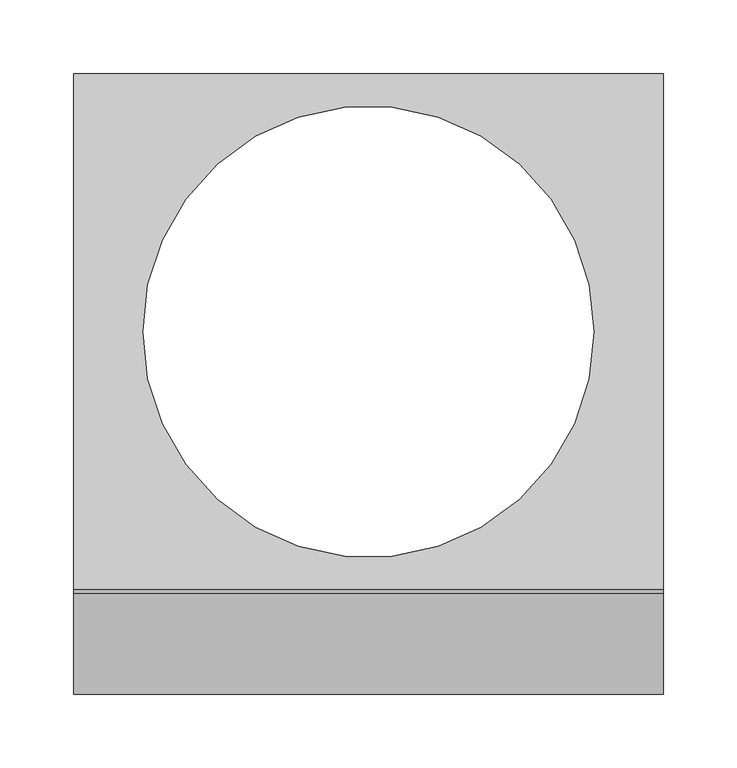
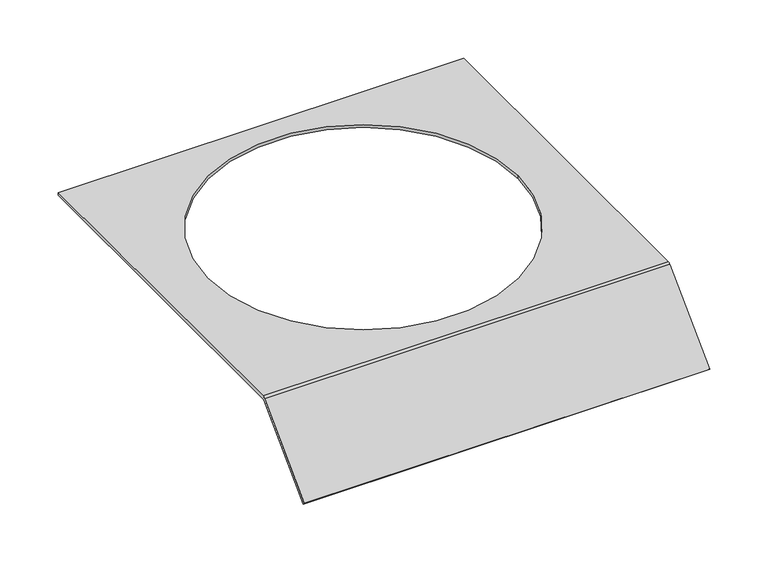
"""IFC4 building model written with IfcOpenShell, lengths in millimetres: proxy geometry, Electrical_Installation_Hager_Covers-With-Installation-Opening-R12 : Electrical_Installation_Hager_Covers-With-Installation-Opening-R12."""

from ifc_helpers import new_model, si_unit, frame, origin, place, context, project, spatial, polyline, circle_curve, source, transform, mapped, element, save
from ifc_brep_helpers import plane_surface, cylinder_surface, revolved_surface, advanced_brep


def electrical_fixtures_6b5bff6d(model_context):
    return source(origin(), model_context, "Body", "AdvancedBrep", [
        advanced_brep(
        [(0.0, 175.0, 40.5), (0.0, 175.0, 37.5), (0.0, -174.8229541, 37.5), (0.0, -175.8322972, 37.0819164), (0.0, -243.712807, -30.7985934), (0.0, -245.8341273, -28.6772731), (0.0, -177.8206472, 39.336207), (0.0, -175.0110025, 40.5), (400.0, 175.0, 40.5), (400.0, -175.0110025, 40.5), (400.0, -177.8206472, 39.336207), (400.0, -245.8341273, -28.6772731), (400.0, -243.712807, -30.7985934), (400.0, -175.8322972, 37.0819164), (400.0, -174.8229541, 37.5), (400.0, 175.0, 37.5), (47.0, 0.0, 37.5), (353.0, 0.0, 37.5), (353.0, 0.0, 40.5), (47.0, 0.0, 40.5)],
        [
            (0, 1),
            (1, 2),
            (2, 3, circle_curve(frame((0.0, -174.8229541, 36.0725733), z_axis=(1.0, 0.0, 0.0), x_axis=(0.0, 1.0, 0.0)), 1.4274267)),
            (3, 4),
            (4, 5),
            (5, 6),
            (6, 7, circle_curve(frame((0.0, -175.0110025, 36.5265623), z_axis=(-1.0, 0.0, 0.0), x_axis=(0.0, 1.0, 0.0)), 3.9734377)),
            (7, 0),
            (8, 9),
            (9, 10, circle_curve(frame((400.0, -175.0110025, 36.5265623), z_axis=(1.0, 0.0, 0.0), x_axis=(0.0, 1.0, 0.0)), 3.9734377)),
            (10, 11),
            (11, 12),
            (12, 13),
            (13, 14, circle_curve(frame((400.0, -174.8229541, 36.0725733), z_axis=(-1.0, 0.0, 0.0), x_axis=(0.0, 1.0, 0.0)), 1.4274267)),
            (14, 15),
            (15, 8),
            (0, 8),
            (15, 1),
            (14, 2),
            (16, 17, circle_curve(frame((200.0, 0.0, 37.5), z_axis=(0.0, 0.0, 1.0), x_axis=(1.0, 0.0, 0.0)), 153.0)),
            (17, 16, circle_curve(frame((200.0, 0.0, 37.5), z_axis=(0.0, 0.0, 1.0), x_axis=(1.0, 0.0, 0.0)), 153.0)),
            (13, 3),
            (12, 4),
            (11, 5),
            (10, 6),
            (9, 7),
            (18, 19, circle_curve(frame((200.0, 0.0, 40.5), z_axis=(0.0, 0.0, -1.0), x_axis=(1.0, 0.0, 0.0)), 153.0)),
            (19, 18, circle_curve(frame((200.0, 0.0, 40.5), z_axis=(0.0, 0.0, -1.0), x_axis=(1.0, 0.0, 0.0)), 153.0)),
            (16, 19),
            (18, 17),
        ],
        [
            plane_surface(frame((0.0, 0.3269864, 15.0), z_axis=(-1.0, 0.0, 0.0), x_axis=(0.0, 0.0, 1.0))),
            plane_surface(frame((400.0, 0.3269864, 15.0), z_axis=(1.0, 0.0, 0.0), x_axis=(0.0, 0.0, 1.0))),
            plane_surface(frame((0.0, 175.0, 40.5), z_axis=(0.0, 1.0, 0.0), x_axis=(1.0, 0.0, 0.0))),
            plane_surface(frame((0.0, 175.0, 37.5), z_axis=(0.0, 0.0, -1.0), x_axis=(1.0, 0.0, 0.0))),
            revolved_surface(polyline([(400.0, -173.3955274, 36.0725733), (0.0, -173.3955274, 36.0725733)]), (0.0, -174.8229541, 36.0725733), (1.0, 0.0, 0.0)),
            plane_surface(frame((0.0, -175.8322972, 37.0819164), z_axis=(0.0, 0.7071067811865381, -0.7071067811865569), x_axis=(1.0, 0.0, 0.0))),
            plane_surface(frame((0.0, -243.712807, -30.7985934), z_axis=(0.0, -0.7071067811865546, -0.7071067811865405), x_axis=(1.0, 0.0, 0.0))),
            plane_surface(frame((0.0, -245.8341273, -28.6772731), z_axis=(0.0, -0.7071067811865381, 0.707106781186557), x_axis=(1.0, 0.0, 0.0))),
            cylinder_surface(frame((0.0, -175.0110025, 36.5265623), z_axis=(-1.0, 0.0, 0.0), x_axis=(0.0, 1.0, 0.0)), 3.9734377),
            plane_surface(frame((0.0, -175.0110025, 40.5), z_axis=(0.0, 0.0, 1.0), x_axis=(1.0, 0.0, 0.0))),
            revolved_surface(polyline([(353.0, 0.0, 40.5), (353.0, 0.0, 37.5)]), (200.0, 0.0, 0.0), (0.0, 0.0, 1.0)),
        ],
        [
            (0, [[1, 2, 3, 4, 5, 6, 7, 8]]),
            (1, [[9, 10, 11, 12, 13, 14, 15, 16]]),
            (2, [[-1, 17, -16, 18]]),
            (3, [[-2, -18, -15, 19], [20, 21]]),
            (4, [[-3, -19, -14, 22]]),
            (5, [[-4, -22, -13, 23]]),
            (6, [[-5, -23, -12, 24]]),
            (7, [[-6, -24, -11, 25]]),
            (8, [[-7, -25, -10, 26]]),
            (9, [[-8, -26, -9, -17], [27, 28]]),
            (10, [[29, -27, 30, -20]]),
            (10, [[-29, -21, -30, -28]]),
        ],
    ),
    ])


if __name__ == "__main__":
    model = new_model("IFC4")
    model_context = context("Model", 3, world=origin())
    ifc_project = project(units=[si_unit("LENGTHUNIT", "METRE", prefix="MILLI")], contexts=[model_context])
    site = spatial("IfcSite", under=ifc_project)
    building = spatial("IfcBuilding", under=site)
    placement = place(None, origin())
    electrical_fixtures_shape = electrical_fixtures_6b5bff6d(model_context)
    element("IfcBuildingElementProxy", 1, Name="Electrical_Installation_Hager_Covers-With-Installation-Opening-R12 : Electrical_Installation_Hager_Covers-With-Installation-Opening-R12", ObjectType="Electrical_Installation_Hager_Covers-With-Installation-Opening-R12 : Electrical_Installation_Hager_Covers-With-Installation-Opening-R12", at=placement, inside=building, context=model_context, shape_type="MappedRepresentation", body=[
        mapped(electrical_fixtures_shape, transform((0.0, 0.0, 0.0), x_axis=(1.0, 0.0, 0.0), y_axis=(0.0, 1.0, 0.0), z_axis=(0.0, 0.0, 1.0))),
    ])
    save(model, "model.ifc")
